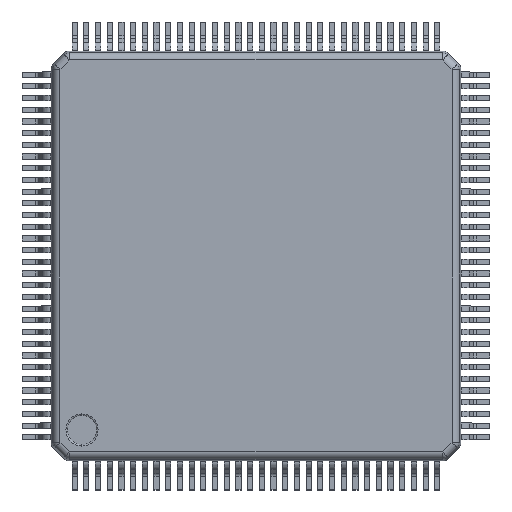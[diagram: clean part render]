
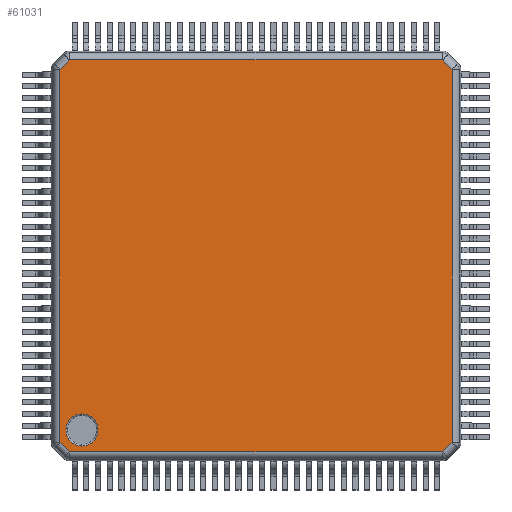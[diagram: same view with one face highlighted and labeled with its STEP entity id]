
A CAD part, top view. The second image highlights one B-rep face of the part: STEP entity #61031.
In plain terms, the highlighted planar face has unit normal (0, 0, 1).
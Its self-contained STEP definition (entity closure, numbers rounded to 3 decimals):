
#60729 = CARTESIAN_POINT ( 'NONE',  ( -5.95, -6.5, 1.2 ) ) ;
#60730 = VERTEX_POINT ( 'NONE', #60729 ) ;
#60738 = CARTESIAN_POINT ( 'NONE',  ( -5.95, -5.4, 1.2 ) ) ;
#60739 = VERTEX_POINT ( 'NONE', #60738 ) ;
#60740 = CARTESIAN_POINT ( 'NONE',  ( -5.95, -5.95, 1.2 ) ) ;
#60741 = DIRECTION ( 'NONE',  ( 0., 0., -1. ) ) ;
#60742 = DIRECTION ( 'NONE',  ( 0., 1., 0. ) ) ;
#60743 = AXIS2_PLACEMENT_3D ( 'NONE', #60740, #60741, #60742 ) ;
#60744 = CIRCLE ( 'NONE', #60743, 0.55) ;
#60745 = EDGE_CURVE ( 'NONE', #60739, #60730, #60744, .T. ) ;
#60950 = CARTESIAN_POINT ( 'NONE',  ( 6.376, 6.701, 1.2 ) ) ;
#60951 = VERTEX_POINT ( 'NONE', #60950 ) ;
#60952 = CARTESIAN_POINT ( 'NONE',  ( -6.376, 6.701, 1.2 ) ) ;
#60953 = VERTEX_POINT ( 'NONE', #60952 ) ;
#60954 = CARTESIAN_POINT ( 'NONE',  ( -6.456, 6.701, 1.2 ) ) ;
#60955 = DIRECTION ( 'NONE',  ( -1., 0., 0. ) ) ;
#60956 = VECTOR ( 'NONE', #60955, 1000. ) ;
#60957 = LINE ( 'NONE', #60954, #60956 ) ;
#60958 = EDGE_CURVE ( 'NONE', #60951, #60953, #60957, .T. ) ;
#60959 = ORIENTED_EDGE ( 'NONE', *, *, #60958, .T. ) ;
#60960 = CARTESIAN_POINT ( 'NONE',  ( -6.701, 6.376, 1.2 ) ) ;
#60961 = VERTEX_POINT ( 'NONE', #60960 ) ;
#60962 = CARTESIAN_POINT ( 'NONE',  ( -6.757, 6.32, 1.2 ) ) ;
#60963 = DIRECTION ( 'NONE',  ( -0.707, -0.707, 0. ) ) ;
#60964 = VECTOR ( 'NONE', #60963, 1000. ) ;
#60965 = LINE ( 'NONE', #60962, #60964 ) ;
#60966 = EDGE_CURVE ( 'NONE', #60953, #60961, #60965, .T. ) ;
#60967 = ORIENTED_EDGE ( 'NONE', *, *, #60966, .T. ) ;
#60968 = CARTESIAN_POINT ( 'NONE',  ( -6.701, -6.376, 1.2 ) ) ;
#60969 = VERTEX_POINT ( 'NONE', #60968 ) ;
#60970 = CARTESIAN_POINT ( 'NONE',  ( -6.701, -6.456, 1.2 ) ) ;
#60971 = DIRECTION ( 'NONE',  ( 0., -1., 0. ) ) ;
#60972 = VECTOR ( 'NONE', #60971, 1000. ) ;
#60973 = LINE ( 'NONE', #60970, #60972 ) ;
#60974 = EDGE_CURVE ( 'NONE', #60961, #60969, #60973, .T. ) ;
#60975 = ORIENTED_EDGE ( 'NONE', *, *, #60974, .T. ) ;
#60976 = CARTESIAN_POINT ( 'NONE',  ( -6.376, -6.701, 1.2 ) ) ;
#60977 = VERTEX_POINT ( 'NONE', #60976 ) ;
#60978 = CARTESIAN_POINT ( 'NONE',  ( -6.32, -6.757, 1.2 ) ) ;
#60979 = DIRECTION ( 'NONE',  ( 0.707, -0.707, 0. ) ) ;
#60980 = VECTOR ( 'NONE', #60979, 1000. ) ;
#60981 = LINE ( 'NONE', #60978, #60980 ) ;
#60982 = EDGE_CURVE ( 'NONE', #60969, #60977, #60981, .T. ) ;
#60983 = ORIENTED_EDGE ( 'NONE', *, *, #60982, .T. ) ;
#60984 = CARTESIAN_POINT ( 'NONE',  ( 6.376, -6.701, 1.2 ) ) ;
#60985 = VERTEX_POINT ( 'NONE', #60984 ) ;
#60986 = CARTESIAN_POINT ( 'NONE',  ( 6.456, -6.701, 1.2 ) ) ;
#60987 = DIRECTION ( 'NONE',  ( 1., 0., 0. ) ) ;
#60988 = VECTOR ( 'NONE', #60987, 1000. ) ;
#60989 = LINE ( 'NONE', #60986, #60988 ) ;
#60990 = EDGE_CURVE ( 'NONE', #60977, #60985, #60989, .T. ) ;
#60991 = ORIENTED_EDGE ( 'NONE', *, *, #60990, .T. ) ;
#60992 = CARTESIAN_POINT ( 'NONE',  ( 6.701, -6.376, 1.2 ) ) ;
#60993 = VERTEX_POINT ( 'NONE', #60992 ) ;
#60994 = CARTESIAN_POINT ( 'NONE',  ( 6.757, -6.32, 1.2 ) ) ;
#60995 = DIRECTION ( 'NONE',  ( 0.707, 0.707, 0. ) ) ;
#60996 = VECTOR ( 'NONE', #60995, 1000. ) ;
#60997 = LINE ( 'NONE', #60994, #60996 ) ;
#60998 = EDGE_CURVE ( 'NONE', #60985, #60993, #60997, .T. ) ;
#60999 = ORIENTED_EDGE ( 'NONE', *, *, #60998, .T. ) ;
#61000 = CARTESIAN_POINT ( 'NONE',  ( 6.701, 6.376, 1.2 ) ) ;
#61001 = VERTEX_POINT ( 'NONE', #61000 ) ;
#61002 = CARTESIAN_POINT ( 'NONE',  ( 6.701, 6.456, 1.2 ) ) ;
#61003 = DIRECTION ( 'NONE',  ( 0., 1., 0. ) ) ;
#61004 = VECTOR ( 'NONE', #61003, 1000. ) ;
#61005 = LINE ( 'NONE', #61002, #61004 ) ;
#61006 = EDGE_CURVE ( 'NONE', #60993, #61001, #61005, .T. ) ;
#61007 = ORIENTED_EDGE ( 'NONE', *, *, #61006, .T. ) ;
#61008 = CARTESIAN_POINT ( 'NONE',  ( 6.32, 6.757, 1.2 ) ) ;
#61009 = DIRECTION ( 'NONE',  ( -0.707, 0.707, 0. ) ) ;
#61010 = VECTOR ( 'NONE', #61009, 1000. ) ;
#61011 = LINE ( 'NONE', #61008, #61010 ) ;
#61012 = EDGE_CURVE ( 'NONE', #61001, #60951, #61011, .T. ) ;
#61013 = ORIENTED_EDGE ( 'NONE', *, *, #61012, .T. ) ;
#61014 = EDGE_LOOP ( 'NONE', ( #60959, #60967, #60975, #60983, #60991, #60999, #61007, #61013 ) ) ;
#61015 = FACE_OUTER_BOUND ( 'NONE', #61014, .T. ) ;
#61016 = ORIENTED_EDGE ( 'NONE', *, *, #60745, .T. ) ;
#61017 = CARTESIAN_POINT ( 'NONE',  ( -5.95, -5.95, 1.2 ) ) ;
#61018 = DIRECTION ( 'NONE',  ( 0., 0., -1. ) ) ;
#61019 = DIRECTION ( 'NONE',  ( 0., 1., 0. ) ) ;
#61020 = AXIS2_PLACEMENT_3D ( 'NONE', #61017, #61018, #61019 ) ;
#61021 = CIRCLE ( 'NONE', #61020, 0.55) ;
#61022 = EDGE_CURVE ( 'NONE', #60730, #60739, #61021, .T. ) ;
#61023 = ORIENTED_EDGE ( 'NONE', *, *, #61022, .T. ) ;
#61024 = EDGE_LOOP ( 'NONE', ( #61016, #61023 ) ) ;
#61025 = FACE_BOUND ( 'NONE', #61024, .T. ) ;
#61026 = CARTESIAN_POINT ( 'NONE',  ( 0., 0., 1.2 ) ) ;
#61027 = DIRECTION ( 'NONE',  ( 0., 0., -1. ) ) ;
#61028 = DIRECTION ( 'NONE',  ( 0., 1., 0. ) ) ;
#61029 = AXIS2_PLACEMENT_3D ( 'NONE', #61026, #61027, #61028 ) ;
#61030 = PLANE ( 'NONE', #61029 ) ;
#61031 = ADVANCED_FACE ( 'NONE', ( #61015, #61025 ), #61030, .F. ) ;
